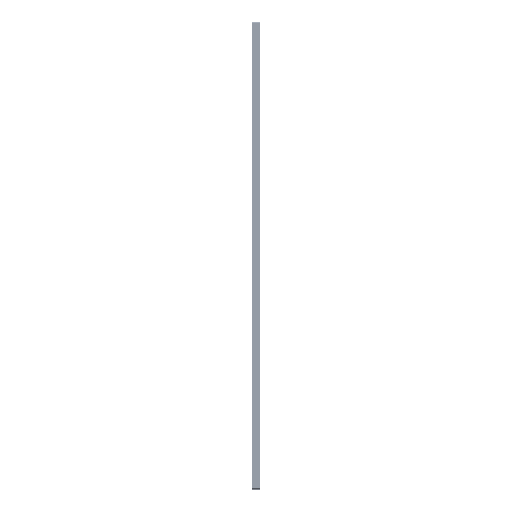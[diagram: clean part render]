
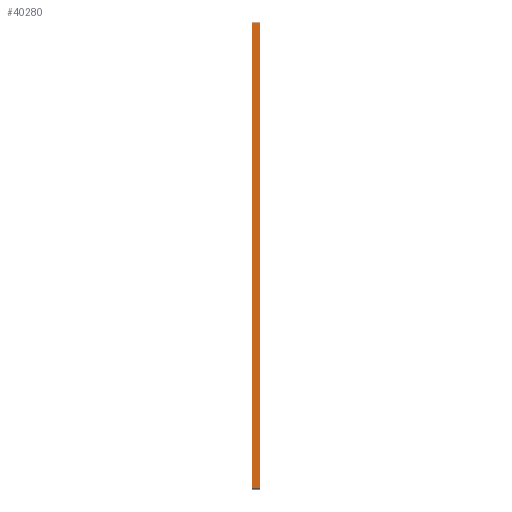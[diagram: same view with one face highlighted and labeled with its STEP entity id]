
A CAD part, top view. The second image highlights one B-rep face of the part: STEP entity #40280.
In plain terms, the highlighted planar face has unit normal (0, 0, 1).
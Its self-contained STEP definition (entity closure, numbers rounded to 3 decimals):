
#12322=FACE_OUTER_BOUND($,#17465,.T.);
#17465=EDGE_LOOP($,(#34075,#34076,#34077,#34078));
#23624=LINE($,#64997,#23664);
#23632=LINE($,#67062,#23672);
#23637=LINE($,#67072,#23677);
#23655=LINE($,#69156,#23695);
#23664=VECTOR($,#50566,13.);
#23672=VECTOR($,#52628,796.);
#23677=VECTOR($,#52635,13.);
#23695=VECTOR($,#54719,796.);
#23703=VERTEX_POINT($,#64994);
#23704=VERTEX_POINT($,#64996);
#24734=VERTEX_POINT($,#67060);
#24738=VERTEX_POINT($,#67070);
#27828=EDGE_CURVE($,#23703,#23704,#23624,.T.);
#28861=EDGE_CURVE($,#24734,#23703,#23632,.T.);
#28866=EDGE_CURVE($,#24738,#24734,#23637,.T.);
#29909=EDGE_CURVE($,#23704,#24738,#23655,.T.);
#34075=ORIENTED_EDGE($,*,*,#28861,.F.);
#34076=ORIENTED_EDGE($,*,*,#28866,.F.);
#34077=ORIENTED_EDGE($,*,*,#29909,.F.);
#34078=ORIENTED_EDGE($,*,*,#27828,.F.);
#40257=PLANE($,#45426);
#40280=ADVANCED_FACE($,(#12322),#40257,.T.);
#45426=AXIS2_PLACEMENT_3D($,#69161,#54724,#54725);
#50566=DIRECTION($,(1.,0.,0.));
#52628=DIRECTION($,(0.,1.,0.));
#52635=DIRECTION($,(-1.,0.,0.));
#54719=DIRECTION($,(0.,-1.,0.));
#54724=DIRECTION('center_axis',(0.,0.,1.));
#54725=DIRECTION('ref_axis',(0.,-1.,0.));
#64994=CARTESIAN_POINT('',(1.,798.,800.));
#64996=CARTESIAN_POINT('',(14.,798.,800.));
#64997=CARTESIAN_POINT($,(0.,798.,800.));
#67060=CARTESIAN_POINT('',(1.,2.,800.));
#67062=CARTESIAN_POINT($,(1.,600.,800.));
#67070=CARTESIAN_POINT('',(14.,2.,800.));
#67072=CARTESIAN_POINT($,(0.,2.,800.));
#69156=CARTESIAN_POINT($,(14.,600.,800.));
#69161=CARTESIAN_POINT('Origin',(0.,800.,800.));
